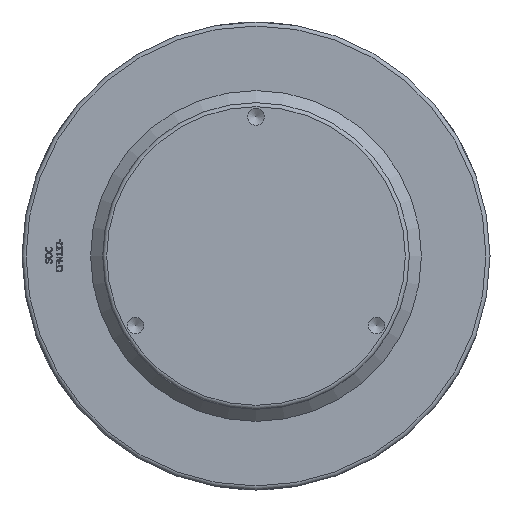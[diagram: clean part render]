
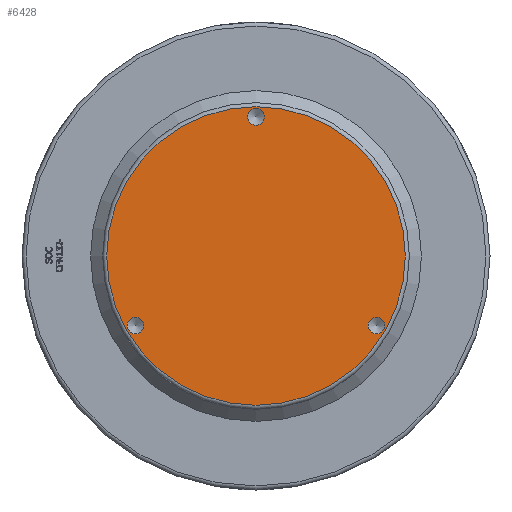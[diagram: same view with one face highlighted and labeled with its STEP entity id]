
A CAD part, front view. The second image highlights one B-rep face of the part: STEP entity #6428.
In plain terms, the highlighted planar face has unit normal (0, -1, 0) as drawn and (0, 1, 0) by its records, which use the part's own axes.
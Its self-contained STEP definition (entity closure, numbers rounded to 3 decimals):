
#1771=PLANE('',#6758);
#1861=FACE_BOUND('',#2463,.T.);
#1862=FACE_BOUND('',#2464,.T.);
#1863=FACE_BOUND('',#2465,.T.);
#2085=FACE_OUTER_BOUND('',#2462,.T.);
#2462=EDGE_LOOP('',(#5257));
#2463=EDGE_LOOP('',(#5258));
#2464=EDGE_LOOP('',(#5259));
#2465=EDGE_LOOP('',(#5260));
#2691=CIRCLE('',#6673,10.376);
#2693=CIRCLE('',#6677,10.376);
#2695=CIRCLE('',#6681,10.376);
#2697=CIRCLE('',#6756,185.);
#2717=VERTEX_POINT('',#7844);
#2719=VERTEX_POINT('',#7850);
#2721=VERTEX_POINT('',#7856);
#3031=VERTEX_POINT('',#10005);
#3369=EDGE_CURVE('',#2717,#2717,#2691,.T.);
#3371=EDGE_CURVE('',#2719,#2719,#2693,.T.);
#3373=EDGE_CURVE('',#2721,#2721,#2695,.T.);
#3837=EDGE_CURVE('',#3031,#3031,#2697,.T.);
#5257=ORIENTED_EDGE('',*,*,#3837,.F.);
#5258=ORIENTED_EDGE('',*,*,#3369,.T.);
#5259=ORIENTED_EDGE('',*,*,#3371,.T.);
#5260=ORIENTED_EDGE('',*,*,#3373,.T.);
#6428=ADVANCED_FACE('',(#2085,#1861,#1862,#1863),#1771,.T.);
#6673=AXIS2_PLACEMENT_3D('',#7845,#6885,#6886);
#6677=AXIS2_PLACEMENT_3D('',#7851,#6893,#6894);
#6681=AXIS2_PLACEMENT_3D('',#7857,#6901,#6902);
#6756=AXIS2_PLACEMENT_3D('',#10006,#7327,#7328);
#6758=AXIS2_PLACEMENT_3D('',#10009,#7331,#7332);
#6885=DIRECTION('center_axis',(0.,-1.,0.));
#6886=DIRECTION('ref_axis',(-0.5,0.,-0.866));
#6893=DIRECTION('center_axis',(0.,-1.,0.));
#6894=DIRECTION('ref_axis',(-0.5,0.,0.866));
#6901=DIRECTION('center_axis',(0.,-1.,0.));
#6902=DIRECTION('ref_axis',(1.,0.,0.));
#7327=DIRECTION('center_axis',(0.,-1.,0.));
#7328=DIRECTION('ref_axis',(-1.,0.,0.));
#7331=DIRECTION('center_axis',(0.,1.,0.));
#7332=DIRECTION('ref_axis',(0.,0.,1.));
#7844=CARTESIAN_POINT('',(144.201,346.5,-95.236));
#7845=CARTESIAN_POINT('Origin',(149.389,346.5,-86.25));
#7850=CARTESIAN_POINT('',(-154.577,346.5,-77.264));
#7851=CARTESIAN_POINT('Origin',(-149.389,346.5,-86.25));
#7856=CARTESIAN_POINT('',(10.376,346.5,172.5));
#7857=CARTESIAN_POINT('Origin',(0.,346.5,172.5));
#10005=CARTESIAN_POINT('',(185.,346.5,0.));
#10006=CARTESIAN_POINT('Origin',(0.,346.5,0.));
#10009=CARTESIAN_POINT('Origin',(190.,346.5,0.));
